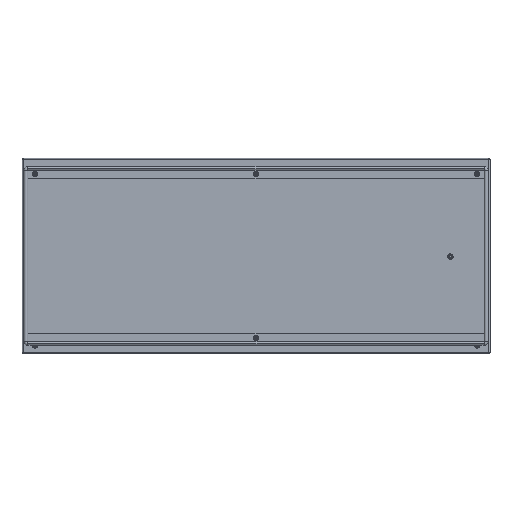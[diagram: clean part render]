
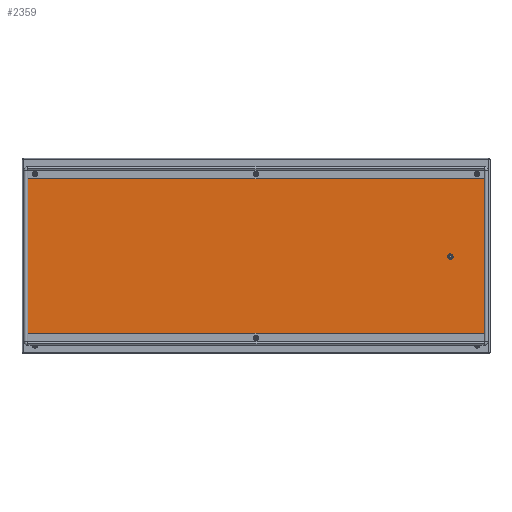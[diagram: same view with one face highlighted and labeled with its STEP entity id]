
A CAD part, top view. The second image highlights one B-rep face of the part: STEP entity #2359.
In plain terms, the highlighted planar face has unit normal (0, 0, 1).
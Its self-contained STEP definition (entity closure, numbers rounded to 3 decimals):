
#225 = EDGE_CURVE ( 'NONE', #4654, #4657, #1737, .T. ) ;
#437 = FACE_BOUND ( 'NONE', #953, .T. ) ;
#439 = FACE_OUTER_BOUND ( 'NONE', #946, .T. ) ;
#449 = AXIS2_PLACEMENT_3D ( 'NONE', #3218, #3217, #3216 ) ;
#946 = EDGE_LOOP ( 'NONE', ( #4956, #4958, #4957, #4959, #4960, #4961, #4962, #4963 ) ) ;
#953 = EDGE_LOOP ( 'NONE', ( #4965, #4967 ) ) ;
#1451 = VECTOR ( 'NONE', #3401, 1000. ) ;
#1452 = AXIS2_PLACEMENT_3D ( 'NONE', #3386, #3385, #3384 ) ;
#1454 = VECTOR ( 'NONE', #3395, 1000. ) ;
#1456 = VECTOR ( 'NONE', #3389, 1000. ) ;
#1596 = AXIS2_PLACEMENT_3D ( 'NONE', #4374, #4370, #4369 ) ;
#1600 = CIRCLE ( 'NONE', #5210, 3. ) ;
#1601 = CIRCLE ( 'NONE', #5209, 3. ) ;
#1737 = CIRCLE ( 'NONE', #1596, 4. ) ;
#1923 = CIRCLE ( 'NONE', #1452, 4. ) ;
#1924 = CIRCLE ( 'NONE', #5203, 3. ) ;
#1943 = CIRCLE ( 'NONE', #5204, 3. ) ;
#2139 = EDGE_CURVE ( 'NONE', #4580, #4585, #1601, .T. ) ;
#2140 = EDGE_CURVE ( 'NONE', #4625, #4580, #3406, .T. ) ;
#2141 = EDGE_CURVE ( 'NONE', #4585, #4569, #3403, .T. ) ;
#2142 = EDGE_CURVE ( 'NONE', #4569, #4592, #1600, .T. ) ;
#2143 = EDGE_CURVE ( 'NONE', #4592, #4658, #3397, .T. ) ;
#2144 = EDGE_CURVE ( 'NONE', #4658, #4643, #1943, .T. ) ;
#2145 = EDGE_CURVE ( 'NONE', #4643, #4663, #3391, .T. ) ;
#2146 = EDGE_CURVE ( 'NONE', #4663, #4625, #1924, .T. ) ;
#2147 = EDGE_CURVE ( 'NONE', #4657, #4654, #1923, .T. ) ;
#2359 = ADVANCED_FACE ( 'NONE', ( #439, #437 ), #3219, .T. ) ;
#2560 = CARTESIAN_POINT ( 'NONE',  ( -595.5, 248.5, 0. ) ) ;
#2565 = CARTESIAN_POINT ( 'NONE',  ( 598.5, 245.5, 0. ) ) ;
#2566 = CARTESIAN_POINT ( 'NONE',  ( 502.5, -1.5, 0. ) ) ;
#2569 = CARTESIAN_POINT ( 'NONE',  ( 494.5, -1.5, 0. ) ) ;
#2580 = CARTESIAN_POINT ( 'NONE',  ( 595.5, 248.5, 0. ) ) ;
#2599 = CARTESIAN_POINT ( 'NONE',  ( -598.5, 245.5, 0. ) ) ;
#2633 = CARTESIAN_POINT ( 'NONE',  ( 598.5, -245.5, 0. ) ) ;
#2640 = CARTESIAN_POINT ( 'NONE',  ( -595.5, -248.5, 0. ) ) ;
#2645 = CARTESIAN_POINT ( 'NONE',  ( -598.5, -245.5, 0. ) ) ;
#2657 = CARTESIAN_POINT ( 'NONE',  ( 595.5, -248.5, 0. ) ) ;
#3216 = DIRECTION ( 'NONE',  ( 1., 0., 0. ) ) ;
#3217 = DIRECTION ( 'NONE',  ( 0., 0., 1. ) ) ;
#3218 = CARTESIAN_POINT ( 'NONE',  ( 0., 0., 0. ) ) ;
#3219 = PLANE ( 'NONE',  #449 ) ;
#3384 = DIRECTION ( 'NONE',  ( -1., 0., 0. ) ) ;
#3385 = DIRECTION ( 'NONE',  ( 0., 0., -1. ) ) ;
#3386 = CARTESIAN_POINT ( 'NONE',  ( 498.5, -1.5, 0. ) ) ;
#3387 = DIRECTION ( 'NONE',  ( 1., 0., 0. ) ) ;
#3388 = DIRECTION ( 'NONE',  ( 0., 0., 1. ) ) ;
#3389 = DIRECTION ( 'NONE',  ( -1., 0., 0. ) ) ;
#3390 = CARTESIAN_POINT ( 'NONE',  ( 600., 248.5, 0. ) ) ;
#3391 = LINE ( 'NONE', #3390, #1456 ) ;
#3392 = CARTESIAN_POINT ( 'NONE',  ( -595.5, 245.5, 0. ) ) ;
#3393 = DIRECTION ( 'NONE',  ( 1., 0., 0. ) ) ;
#3394 = DIRECTION ( 'NONE',  ( 0., 0., 1. ) ) ;
#3395 = DIRECTION ( 'NONE',  ( 0., 1., 0. ) ) ;
#3396 = CARTESIAN_POINT ( 'NONE',  ( 598.5, -250., 0. ) ) ;
#3397 = LINE ( 'NONE', #3396, #1454 ) ;
#3398 = CARTESIAN_POINT ( 'NONE',  ( 595.5, 245.5, 0. ) ) ;
#3399 = DIRECTION ( 'NONE',  ( 1., 0., 0. ) ) ;
#3400 = DIRECTION ( 'NONE',  ( 0., 0., 1. ) ) ;
#3401 = DIRECTION ( 'NONE',  ( 1., 0., 0. ) ) ;
#3402 = CARTESIAN_POINT ( 'NONE',  ( 600., -248.5, 0. ) ) ;
#3403 = LINE ( 'NONE', #3402, #1451 ) ;
#3404 = DIRECTION ( 'NONE',  ( 0., -1., 0. ) ) ;
#3405 = CARTESIAN_POINT ( 'NONE',  ( -598.5, -250., 0. ) ) ;
#3406 = LINE ( 'NONE', #3405, #5211 ) ;
#3407 = CARTESIAN_POINT ( 'NONE',  ( 595.5, -245.5, 0. ) ) ;
#3408 = DIRECTION ( 'NONE',  ( 1., 0., 0. ) ) ;
#3409 = DIRECTION ( 'NONE',  ( 0., 0., 1. ) ) ;
#3410 = CARTESIAN_POINT ( 'NONE',  ( -595.5, -245.5, 0. ) ) ;
#4369 = DIRECTION ( 'NONE',  ( -1., 0., 0. ) ) ;
#4370 = DIRECTION ( 'NONE',  ( 0., 0., -1. ) ) ;
#4374 = CARTESIAN_POINT ( 'NONE',  ( 498.5, -1.5, 0. ) ) ;
#4569 = VERTEX_POINT ( 'NONE', #2657 ) ;
#4580 = VERTEX_POINT ( 'NONE', #2645 ) ;
#4585 = VERTEX_POINT ( 'NONE', #2640 ) ;
#4592 = VERTEX_POINT ( 'NONE', #2633 ) ;
#4625 = VERTEX_POINT ( 'NONE', #2599 ) ;
#4643 = VERTEX_POINT ( 'NONE', #2580 ) ;
#4654 = VERTEX_POINT ( 'NONE', #2569 ) ;
#4657 = VERTEX_POINT ( 'NONE', #2566 ) ;
#4658 = VERTEX_POINT ( 'NONE', #2565 ) ;
#4663 = VERTEX_POINT ( 'NONE', #2560 ) ;
#4956 = ORIENTED_EDGE ( 'NONE', *, *, #2140, .T. ) ;
#4957 = ORIENTED_EDGE ( 'NONE', *, *, #2141, .T. ) ;
#4958 = ORIENTED_EDGE ( 'NONE', *, *, #2139, .T. ) ;
#4959 = ORIENTED_EDGE ( 'NONE', *, *, #2142, .T. ) ;
#4960 = ORIENTED_EDGE ( 'NONE', *, *, #2143, .T. ) ;
#4961 = ORIENTED_EDGE ( 'NONE', *, *, #2144, .T. ) ;
#4962 = ORIENTED_EDGE ( 'NONE', *, *, #2145, .T. ) ;
#4963 = ORIENTED_EDGE ( 'NONE', *, *, #2146, .T. ) ;
#4965 = ORIENTED_EDGE ( 'NONE', *, *, #2147, .T. ) ;
#4967 = ORIENTED_EDGE ( 'NONE', *, *, #225, .T. ) ;
#5203 = AXIS2_PLACEMENT_3D ( 'NONE', #3392, #3388, #3387 ) ;
#5204 = AXIS2_PLACEMENT_3D ( 'NONE', #3398, #3394, #3393 ) ;
#5209 = AXIS2_PLACEMENT_3D ( 'NONE', #3410, #3409, #3408 ) ;
#5210 = AXIS2_PLACEMENT_3D ( 'NONE', #3407, #3400, #3399 ) ;
#5211 = VECTOR ( 'NONE', #3404, 1000. ) ;
